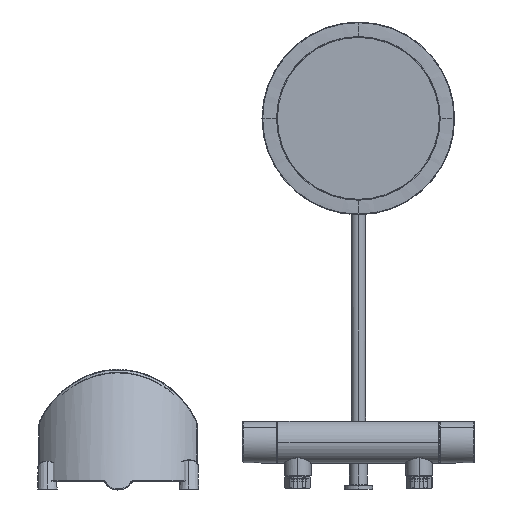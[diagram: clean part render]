
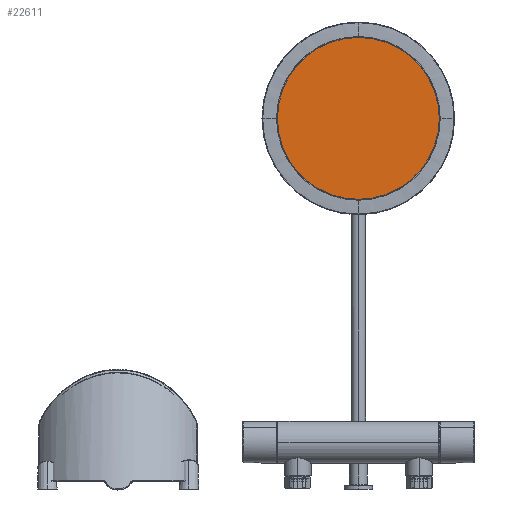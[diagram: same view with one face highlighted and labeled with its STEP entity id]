
A CAD part, front view. The second image highlights one B-rep face of the part: STEP entity #22611.
In plain terms, the highlighted planar face has unit normal (0, -1, 0).
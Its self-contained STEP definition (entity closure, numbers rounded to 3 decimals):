
#1304 = AXIS2_PLACEMENT_3D ( 'NONE', #4225, #16580, #6086 ) ;
#1639 = AXIS2_PLACEMENT_3D ( 'NONE', #8177, #20449, #9936 ) ;
#2643 = CIRCLE ( 'NONE', #20438, 100.013 ) ;
#2969 = VERTEX_POINT ( 'NONE', #14122 ) ;
#4225 = CARTESIAN_POINT ( 'NONE',  ( -0.048, 839.612, 483.308 ) ) ;
#4771 = DIRECTION ( 'NONE',  ( 0., 1., 0. ) ) ;
#6086 = DIRECTION ( 'NONE',  ( 1., 0., 0. ) ) ;
#7156 = EDGE_CURVE ( 'NONE', #22653, #2969, #15511, .T. ) ;
#8177 = CARTESIAN_POINT ( 'NONE',  ( -0.048, 839.612, 483.308 ) ) ;
#9936 = DIRECTION ( 'NONE',  ( 1., 0., 0. ) ) ;
#13128 = CARTESIAN_POINT ( 'NONE',  ( -0.048, 839.612, 583.321 ) ) ;
#14122 = CARTESIAN_POINT ( 'NONE',  ( -0.048, 839.612, 383.295 ) ) ;
#14504 = FACE_OUTER_BOUND ( 'NONE', #21772, .T. ) ;
#14823 = PLANE ( 'NONE',  #1304 ) ;
#15281 = CARTESIAN_POINT ( 'NONE',  ( -0.048, 839.612, 483.308 ) ) ;
#15499 = ORIENTED_EDGE ( 'NONE', *, *, #18386, .F. ) ;
#15511 = CIRCLE ( 'NONE', #1639, 100.013 ) ;
#16580 = DIRECTION ( 'NONE',  ( 0., 1., 0. ) ) ;
#17048 = DIRECTION ( 'NONE',  ( 1., 0., 0. ) ) ;
#18386 = EDGE_CURVE ( 'NONE', #2969, #22653, #2643, .T. ) ;
#20438 = AXIS2_PLACEMENT_3D ( 'NONE', #15281, #4771, #17048 ) ;
#20449 = DIRECTION ( 'NONE',  ( 0., 1., 0. ) ) ;
#21160 = ORIENTED_EDGE ( 'NONE', *, *, #7156, .F. ) ;
#21772 = EDGE_LOOP ( 'NONE', ( #15499, #21160 ) ) ;
#22611 = ADVANCED_FACE ( 'NONE', ( #14504 ), #14823, .F. ) ;
#22653 = VERTEX_POINT ( 'NONE', #13128 ) ;
